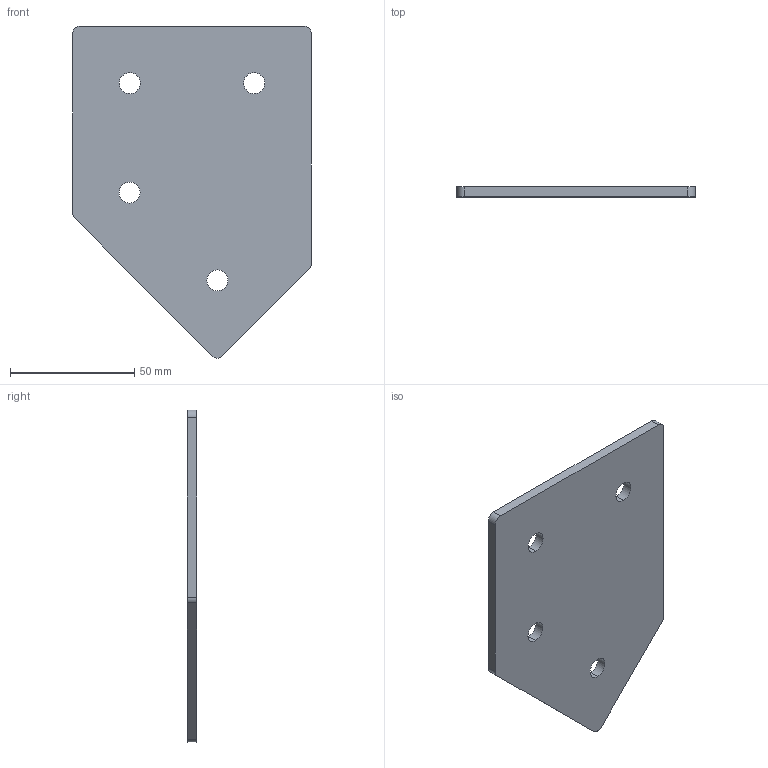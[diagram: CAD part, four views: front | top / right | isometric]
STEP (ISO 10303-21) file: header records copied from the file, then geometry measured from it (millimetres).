
FILE_DESCRIPTION (( 'STEP AP214' ), '1' );
FILE_NAME ('Ï-4-óãîë-45-50.STEP', '2017-08-16T05:32:20', ( '' ), ( '' ), 'SwSTEP 2.0', 'SolidWorks 2014', '' );
FILE_SCHEMA (( 'AUTOMOTIVE_DESIGN' ));
Length unit declared in the file: millimetre
Products named in the file (2): Ï-4-óãîë-45-50
Bounding box: 96 x 4 x 133.63 mm (x, y, z)
Volume: 41245.1 mm3; surface area: 22655.2 mm2
Topology: 1 solids, 1 shells, 20 faces, 54 edges, 36 vertices
Faces by surface type: cylinder 13, plane 7
Entity records: 709 total; most frequent: DIRECTION 124, CARTESIAN_POINT 112, ORIENTED_EDGE 108, EDGE_CURVE 54, AXIS2_PLACEMENT_3D 48, VERTEX_POINT 36, LINE 28, EDGE_LOOP 28
